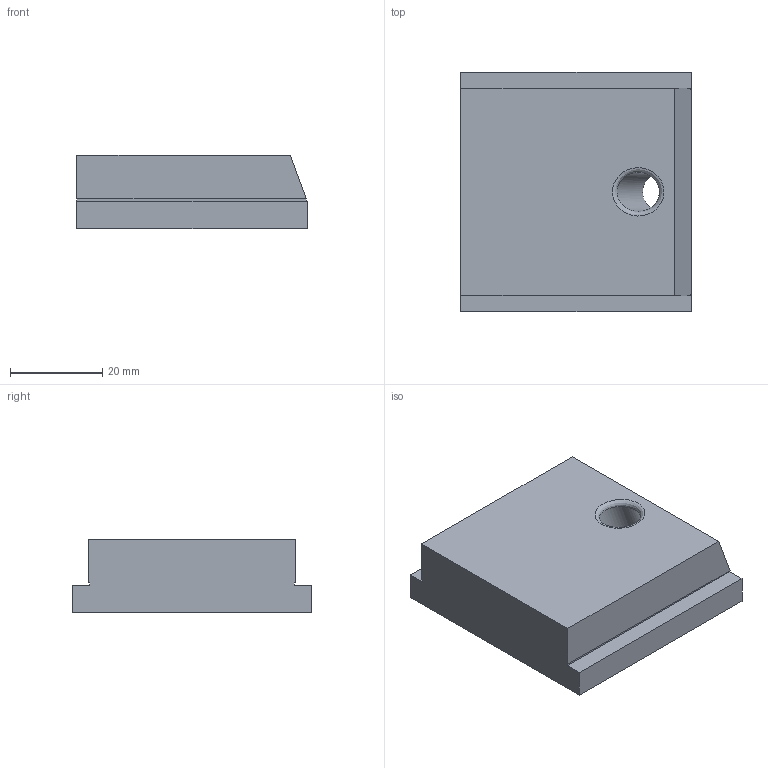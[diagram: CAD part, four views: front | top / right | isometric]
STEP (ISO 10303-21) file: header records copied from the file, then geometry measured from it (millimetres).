
FILE_DESCRIPTION (( 'STEP AP214' ), '1' );
FILE_NAME ('Schieber_-_H16 B45 L50.step', '2024-01-15T11:27:16', ( '' ), ( '' ), 'SwSTEP 2.0', 'SolidWorks 2020', '' );
FILE_SCHEMA (( 'AUTOMOTIVE_DESIGN' ));
Length unit declared in the file: millimetre
Products named in the file (1): Schieber_-_H16 B45 L50
Bounding box: 50 x 52 x 16 mm (x, y, z)
Volume: 36292.8 mm3; surface area: 8533.1 mm2
Topology: 1 solids, 1 shells, 208 faces, 555 edges, 369 vertices
Faces by surface type: plane 122, bspline 85, cylinder 1
Full cylindrical faces by diameter (mm): 8.5 x1
Entity records: 10797 total; most frequent: CARTESIAN_POINT 6166, ORIENTED_EDGE 1106, DIRECTION 630, EDGE_CURVE 553, VECTOR 382, LINE 382, VERTEX_POINT 369, EDGE_LOOP 232
